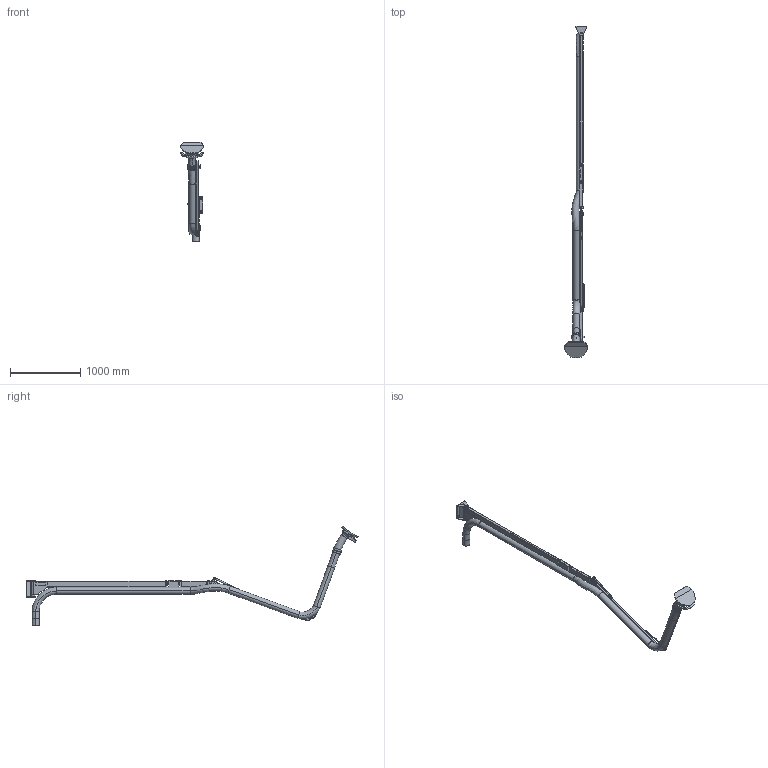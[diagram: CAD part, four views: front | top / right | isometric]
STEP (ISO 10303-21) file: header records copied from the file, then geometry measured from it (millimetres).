
FILE_DESCRIPTION((''),'2;1');
FILE_NAME('PR5000-100','2018-10-01T',('Gustav Stenberg'),(''),'CREO PARAMETRIC BY PTC INC, 2016130','CREO PARAMETRIC BY PTC INC, 2016130','');
FILE_SCHEMA(('AUTOMOTIVE_DESIGN { 1 0 10303 214 1 1 1 1 }'));
Length unit declared in the file: millimetre
Products named in the file (59): 100-6348-01; 100-6301-02; 100-6305-2; 100-6300-03; 100-6348; G_Z_PLATE; 100-6309-1; 100-6309-3; 100-6309; G_PR_TUBE_WALL; 100-6301-01; 100-6301-03; 100186; 100-6308-01; 100-6308-02; 100-6308-3; 100183; 100-6308; 100064; 102683; 100-5506_L_LIGHT; 100-5506_R_LIGHT; 100-5506; 100-5404-L_LIGHT; 100-5404-R_LIGHT; 100-5404; 100-5914; 100-5913; 100-5915; 135085; 102679; 100-5512-L_LIGHT; 100-512-R_LIGHT; 100-5512; 122219; 102715; 100-5911; 100-5518; 100-6305-1; 100-6305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
Assembly tree (67 placements, depth 5):
  PR5000-100
    100064
      100-6348
        100-6348-01
        100-6301-02
        100-6305-2
        100-6300-03
      100-6309
        G_Z_PLATE  x2
        100-6309-1
        100-6309-3
      100186
        G_PR_TUBE_WALL
        100-6301-01  x2
        100-6301-03
        100-6301-02
        100-6305-2
      100-6308
        100183
          100-6308-01
          100-6308-02
          100-6308-3
    134112
      135085
        102683
        100-5506
          100-5506_L_LIGHT
          100-5506_R_LIGHT
        100-5404
          100-5404-L_LIGHT
          100-5404-R_LIGHT
        100-5915  x2
          100-5914
          100-5913
      122219
        102679
        100-5512
          100-5512-L_LIGHT
          100-512-R_LIGHT
      100-5518
        102715
        100-5911
      100-6305
        100-6305-2
        100-6305-1
        100-5911
    100-5721_LIGHT
    100-6341-100
      100-5821_LIGHT
      100-5862A_LIGHT
      100-5865A_LIGHT
      100-5826-02
      126054_AF0
    130368
      135584
      STAB_K4-D4
    102118-REF
    130371
      135588
      STAB_K4-D4
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Bounding box: 328.82 x 4728.63 x 1421.76 mm (x, y, z)
Volume: 18128055.3 mm3; surface area: 5640144.9 mm2
Topology: 52 solids, 53 shells, 1235 faces, 2965 edges, 1832 vertices
Faces by surface type: plane 457, cylinder 407, cone 158, bspline 98, torus 85, sphere 26, extrusion 4
Entity records: 58402 total; most frequent: CARTESIAN_POINT 13758, DIRECTION 5379, ORIENTED_EDGE 4936, PROPERTY_DEFINITION 2514, REPRESENTATION 2475, PROPERTY_DEFINITION_REPRESENTATION 2475, EDGE_CURVE 2468, AXIS2_PLACEMENT_3D 2123
